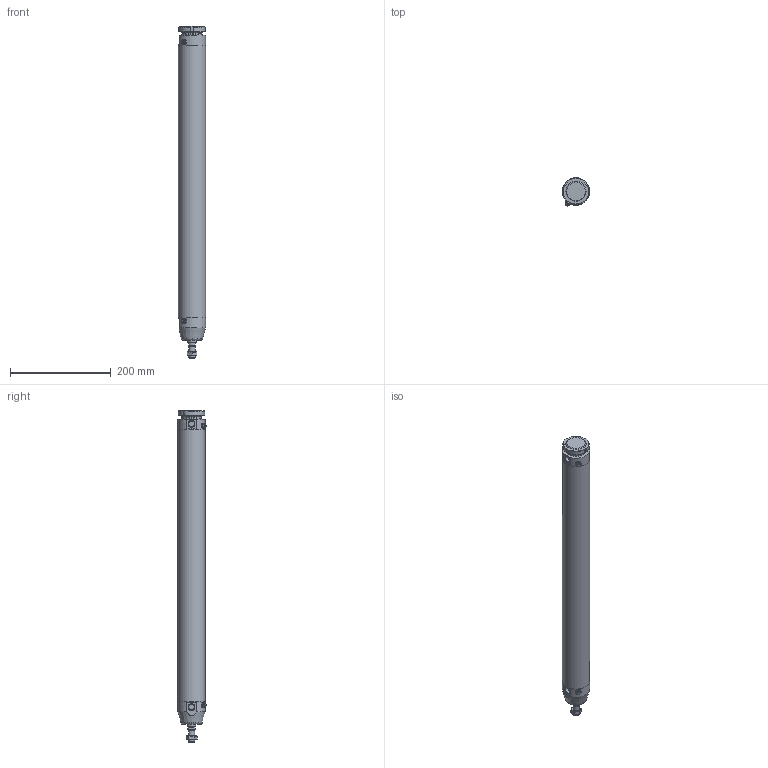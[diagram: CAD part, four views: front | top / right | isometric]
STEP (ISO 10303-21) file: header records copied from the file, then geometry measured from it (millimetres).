
FILE_DESCRIPTION(/* description */ (''),/* implementation_level */ '2;1');
FILE_NAME(/* name */ 'I:\Area Tecnica\Documenti\A-Manieri\_Inventor\12X\12X#B_###_####_#_#\12XBB_050_0500_#_#.stp',/* time_stamp */ '2015-04-28T14:29:35+02:00',/* author */ ('maniean1'),/* organization */ ('Pneumax S.p.A.'),/* preprocessor_version */ 'ST-DEVELOPER v15.2',/* originating_system */ 'Autodesk Inventor 2014',/* authorisation */ '');
FILE_SCHEMA (('AUTOMOTIVE_DESIGN { 1 0 10303 214 3 1 1 }'));
Length unit declared in the file: millimetre
Products named in the file (7): C1250_619-0500; 12X50_614; S12X50_0500; 12X_50_11; 12X50_621; G12X_050_05; 12XBB_050_0500_#_#
Bounding box: 54 x 55.88 x 660 mm (x, y, z)
Volume: 531442.4 mm3; surface area: 245877.9 mm2
Topology: 6 solids, 6 shells, 98 faces, 217 edges, 140 vertices
Faces by surface type: plane 52, cylinder 24, cone 19, torus 3
Full cylindrical faces by diameter (mm): 5 x2, 10.2 x1, 11 x2, 11.4 x2, 12 x2, 14 x1, 15.6 x1, 16 x1, 38.2 x1, 40 x3, 50 x2, 54 x3
Entity records: 2646 total; most frequent: CARTESIAN_POINT 539, DIRECTION 439, ORIENTED_EDGE 346, AXIS2_PLACEMENT_3D 186, EDGE_CURVE 173, EDGE_LOOP 150, VERTEX_POINT 131, ADVANCED_FACE 98
